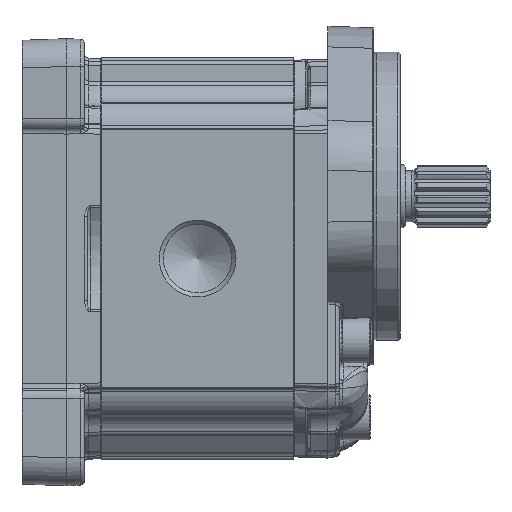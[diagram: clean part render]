
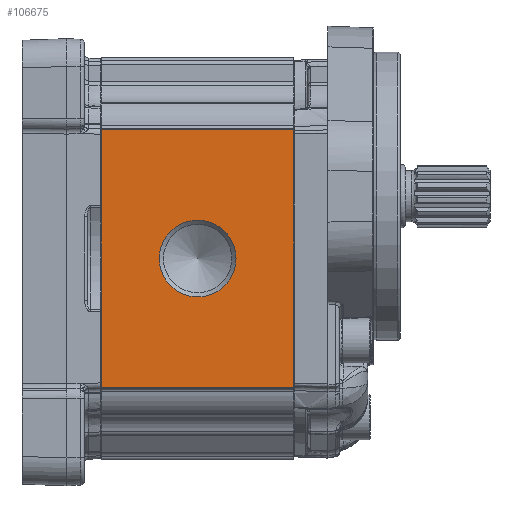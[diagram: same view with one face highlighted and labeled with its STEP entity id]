
A CAD part, left-side view. The second image highlights one B-rep face of the part: STEP entity #106675.
In plain terms, the highlighted planar face has unit normal (-1, 0, 0).
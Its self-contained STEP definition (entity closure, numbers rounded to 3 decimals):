
#5982=PLANE('',#112569);
#8778=LINE('',#204438,#13072);
#8789=LINE('',#204523,#13083);
#8827=LINE('',#204623,#13121);
#8828=LINE('',#204624,#13122);
#13072=VECTOR('',#126197,1000.);
#13083=VECTOR('',#126272,1000.);
#13121=VECTOR('',#126390,1000.);
#13122=VECTOR('',#126391,1000.);
#28302=ORIENTED_EDGE('',*,*,#46704,.T.);
#28303=ORIENTED_EDGE('',*,*,#46608,.F.);
#28304=ORIENTED_EDGE('',*,*,#46705,.T.);
#28305=ORIENTED_EDGE('',*,*,#46650,.F.);
#28306=ORIENTED_EDGE('',*,*,#46706,.T.);
#46608=EDGE_CURVE('',#56690,#56691,#8778,.T.);
#46650=EDGE_CURVE('',#56732,#56733,#8789,.T.);
#46704=EDGE_CURVE('',#56754,#56754,#62563,.F.);
#46705=EDGE_CURVE('',#56690,#56733,#8827,.F.);
#46706=EDGE_CURVE('',#56732,#56691,#8828,.F.);
#56690=VERTEX_POINT('',#204437);
#56691=VERTEX_POINT('',#204439);
#56732=VERTEX_POINT('',#204522);
#56733=VERTEX_POINT('',#204524);
#56754=VERTEX_POINT('',#204622);
#62563=CIRCLE('',#112570,13.559);
#66948=EDGE_LOOP('',(#28302));
#66949=EDGE_LOOP('',(#28303,#28304,#28305,#28306));
#71625=FACE_BOUND('',#66948,.T.);
#71626=FACE_BOUND('',#66949,.T.);
#106675=ADVANCED_FACE('',(#71625,#71626),#5982,.T.);
#112569=AXIS2_PLACEMENT_3D('',#204620,#126386,#126387);
#112570=AXIS2_PLACEMENT_3D('',#204621,#126388,#126389);
#126197=DIRECTION('',(0.,0.,1.));
#126272=DIRECTION('',(0.,0.,-1.));
#126386=DIRECTION('',(-1.,0.,0.));
#126387=DIRECTION('',(0.,0.,-1.));
#126388=DIRECTION('',(-1.,0.,0.));
#126389=DIRECTION('',(0.,0.,-1.));
#126390=DIRECTION('',(0.,1.,0.));
#126391=DIRECTION('',(0.,-1.,0.));
#204437=CARTESIAN_POINT('',(-57.5,68.,-45.5));
#204438=CARTESIAN_POINT('',(-57.5,68.,-84.819));
#204439=CARTESIAN_POINT('',(-57.5,68.,45.5));
#204522=CARTESIAN_POINT('',(-57.5,0.,45.5));
#204523=CARTESIAN_POINT('',(-57.5,0.,-44.978));
#204524=CARTESIAN_POINT('',(-57.5,0.,-45.5));
#204620=CARTESIAN_POINT('',(-57.5,-154.175,-84.819));
#204621=CARTESIAN_POINT('',(-57.5,34.,0.));
#204622=CARTESIAN_POINT('',(-57.5,34.,-13.559));
#204623=CARTESIAN_POINT('',(-57.5,-154.175,-45.5));
#204624=CARTESIAN_POINT('',(-57.5,-154.175,45.5));
